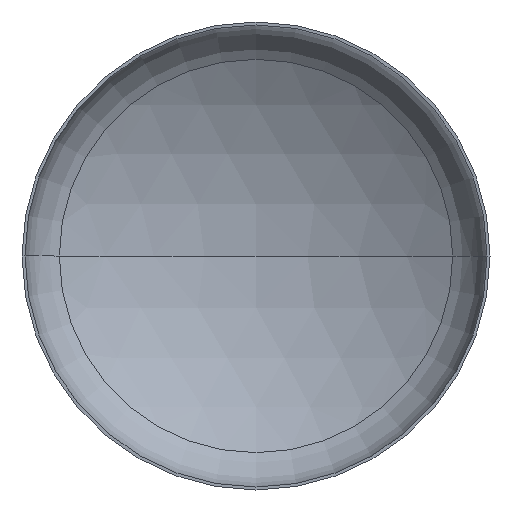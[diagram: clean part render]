
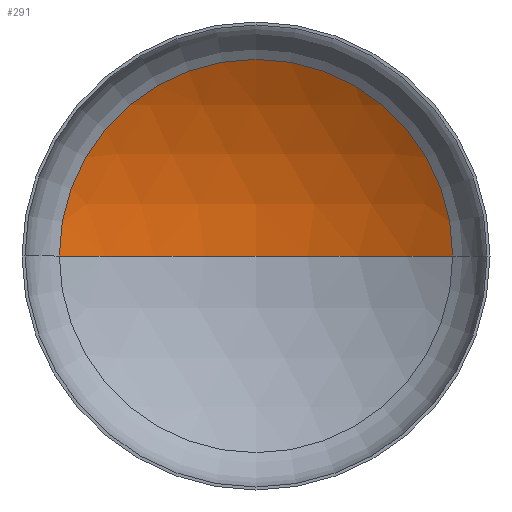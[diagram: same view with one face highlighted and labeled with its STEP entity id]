
A CAD part, front view. The second image highlights one B-rep face of the part: STEP entity #291.
In plain terms, the highlighted spherical face has radius 1760 mm.
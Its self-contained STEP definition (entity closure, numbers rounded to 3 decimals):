
#2 = VERTEX_POINT ( 'NONE', #254 ) ;
#11 = EDGE_LOOP ( 'NONE', ( #47, #77, #37 ) ) ;
#14 = AXIS2_PLACEMENT_3D ( 'NONE', #392, #172, #110 ) ;
#33 = VERTEX_POINT ( 'NONE', #358 ) ;
#37 = ORIENTED_EDGE ( 'NONE', *, *, #145, .T. ) ;
#47 = ORIENTED_EDGE ( 'NONE', *, *, #150, .F. ) ;
#51 = AXIS2_PLACEMENT_3D ( 'NONE', #253, #252, #250 ) ;
#55 = AXIS2_PLACEMENT_3D ( 'NONE', #198, #203, #215 ) ;
#57 = AXIS2_PLACEMENT_3D ( 'NONE', #107, #277, #302 ) ;
#77 = ORIENTED_EDGE ( 'NONE', *, *, #146, .T. ) ;
#107 = CARTESIAN_POINT ( 'NONE',  ( 0., 334.301, 0. ) ) ;
#110 = DIRECTION ( 'NONE',  ( -1., 0., 0. ) ) ;
#136 = VERTEX_POINT ( 'NONE', #327 ) ;
#145 = EDGE_CURVE ( 'NONE', #2, #136, #319, .T. ) ;
#146 = EDGE_CURVE ( 'NONE', #33, #2, #257, .T. ) ;
#150 = EDGE_CURVE ( 'NONE', #33, #136, #188, .T. ) ;
#164 = FACE_OUTER_BOUND ( 'NONE', #11, .T. ) ;
#172 = DIRECTION ( 'NONE',  ( 0., 0., -1. ) ) ;
#188 = CIRCLE ( 'NONE', #51, 1760. ) ;
#198 = CARTESIAN_POINT ( 'NONE',  ( 0., -1163.257, 0. ) ) ;
#203 = DIRECTION ( 'NONE',  ( 0., 0., -1. ) ) ;
#215 = DIRECTION ( 'NONE',  ( -1., 0., 0. ) ) ;
#250 = DIRECTION ( 'NONE',  ( 1., 0., 0. ) ) ;
#252 = DIRECTION ( 'NONE',  ( 0., 0., 1. ) ) ;
#253 = CARTESIAN_POINT ( 'NONE',  ( 0., -1163.257, 0. ) ) ;
#254 = CARTESIAN_POINT ( 'NONE',  ( 924.62, 334.301, 0. ) ) ;
#257 = CIRCLE ( 'NONE', #55, 1760. ) ;
#277 = DIRECTION ( 'NONE',  ( 0., -1., 0. ) ) ;
#291 = ADVANCED_FACE ( 'NONE', ( #164 ), #300, .F. ) ;
#300 = SPHERICAL_SURFACE ( 'NONE', #14, 1760. ) ;
#302 = DIRECTION ( 'NONE',  ( 1., 0., 0. ) ) ;
#319 = CIRCLE ( 'NONE', #57, 924.62 ) ;
#327 = CARTESIAN_POINT ( 'NONE',  ( -924.62, 334.301, 0. ) ) ;
#358 = CARTESIAN_POINT ( 'NONE',  ( 0., 596.743, 0. ) ) ;
#392 = CARTESIAN_POINT ( 'NONE',  ( 0., -1163.257, 0. ) ) ;
